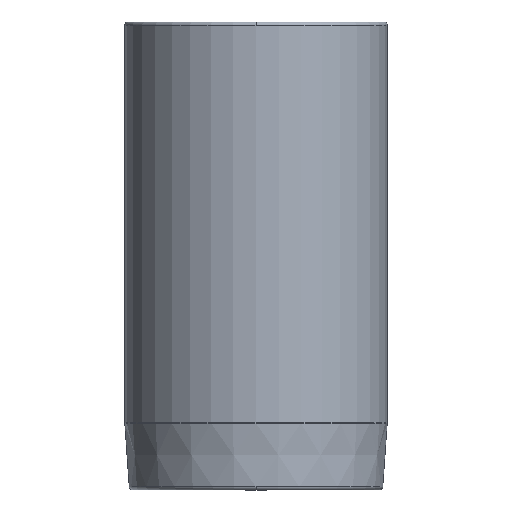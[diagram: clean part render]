
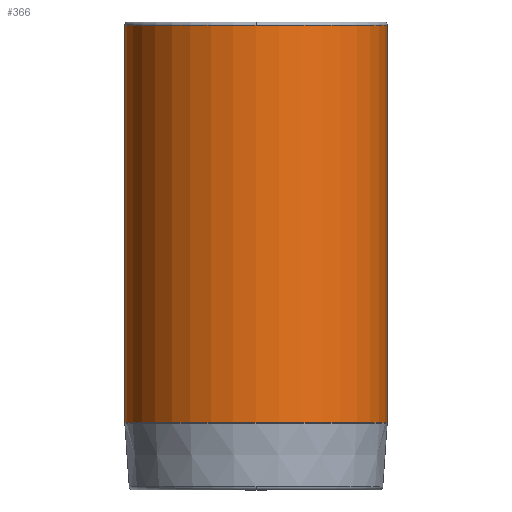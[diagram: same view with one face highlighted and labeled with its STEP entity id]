
A CAD part, front view. The second image highlights one B-rep face of the part: STEP entity #366.
In plain terms, the highlighted cylindrical face has radius 19.625 mm (diameter 39.25 mm), a partial arc.
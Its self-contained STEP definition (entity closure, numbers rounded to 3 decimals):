
#271=CARTESIAN_POINT('',(0.0,-19.625,34.5));
#272=VERTEX_POINT('',#271);
#298=CARTESIAN_POINT('',(-19.625,0.,34.5));
#299=VERTEX_POINT('',#298);
#307=CARTESIAN_POINT('',(0.0,0.,34.5));
#308=DIRECTION('',(0.0,0.0,1.0));
#309=DIRECTION('',(1.0,0.0,0.0));
#310=AXIS2_PLACEMENT_3D('',#307,#308,#309);
#311=CIRCLE('',#310,19.625);
#312=EDGE_CURVE('',#299,#272,#311,.T.);
#317=CARTESIAN_POINT('',(0.0,0.,4.767));
#318=DIRECTION('',(0.0,0.,1.0));
#319=DIRECTION('',(1.0,0.0,0.0));
#320=AXIS2_PLACEMENT_3D('',#317,#318,#319);
#321=CYLINDRICAL_SURFACE('',#320,19.625);
#322=CARTESIAN_POINT('',(19.625,0.,34.5));
#323=VERTEX_POINT('',#322);
#324=CARTESIAN_POINT('',(19.625,0.,-24.965));
#325=VERTEX_POINT('',#324);
#326=CARTESIAN_POINT('',(19.625,0.,34.5));
#327=DIRECTION('',(0.0,0.0,-1.0));
#328=VECTOR('',#327,59.465);
#329=LINE('',#326,#328);
#330=EDGE_CURVE('',#323,#325,#329,.T.);
#331=ORIENTED_EDGE('',*,*,#330,.F.);
#332=CARTESIAN_POINT('',(0.0,0.,34.5));
#333=DIRECTION('',(0.0,0.0,1.0));
#334=DIRECTION('',(1.0,0.0,0.0));
#335=AXIS2_PLACEMENT_3D('',#332,#333,#334);
#336=CIRCLE('',#335,19.625);
#337=EDGE_CURVE('',#272,#323,#336,.T.);
#338=ORIENTED_EDGE('',*,*,#337,.F.);
#339=ORIENTED_EDGE('',*,*,#312,.F.);
#340=CARTESIAN_POINT('',(-19.625,0.,-24.965));
#341=VERTEX_POINT('',#340);
#342=CARTESIAN_POINT('',(-19.625,0.,34.5));
#343=DIRECTION('',(0.0,0.0,-1.0));
#344=VECTOR('',#343,59.465);
#345=LINE('',#342,#344);
#346=EDGE_CURVE('',#299,#341,#345,.T.);
#347=ORIENTED_EDGE('',*,*,#346,.T.);
#348=CARTESIAN_POINT('',(0.0,-19.625,-24.965));
#349=VERTEX_POINT('',#348);
#350=CARTESIAN_POINT('',(0.0,0.,-24.965));
#351=DIRECTION('',(0.0,0.0,1.0));
#352=DIRECTION('',(1.0,0.0,0.0));
#353=AXIS2_PLACEMENT_3D('',#350,#351,#352);
#354=CIRCLE('',#353,19.625);
#355=EDGE_CURVE('',#341,#349,#354,.T.);
#356=ORIENTED_EDGE('',*,*,#355,.T.);
#357=CARTESIAN_POINT('',(0.0,0.,-24.965));
#358=DIRECTION('',(0.0,0.0,1.0));
#359=DIRECTION('',(1.0,0.0,0.0));
#360=AXIS2_PLACEMENT_3D('',#357,#358,#359);
#361=CIRCLE('',#360,19.625);
#362=EDGE_CURVE('',#349,#325,#361,.T.);
#363=ORIENTED_EDGE('',*,*,#362,.T.);
#364=EDGE_LOOP('',(#331,#338,#339,#347,#356,#363));
#365=FACE_OUTER_BOUND('',#364,.T.);
#366=ADVANCED_FACE('',(#365),#321,.T.);
